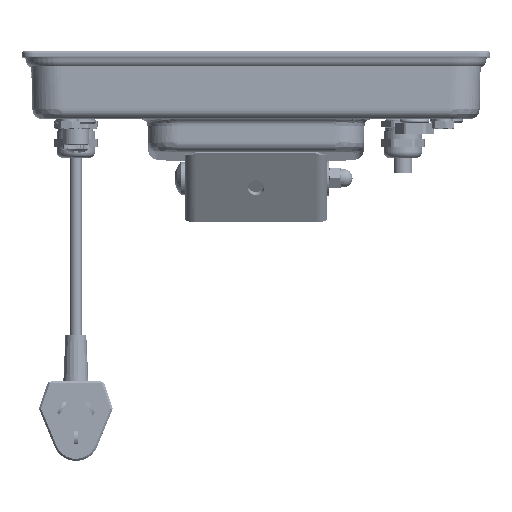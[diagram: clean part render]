
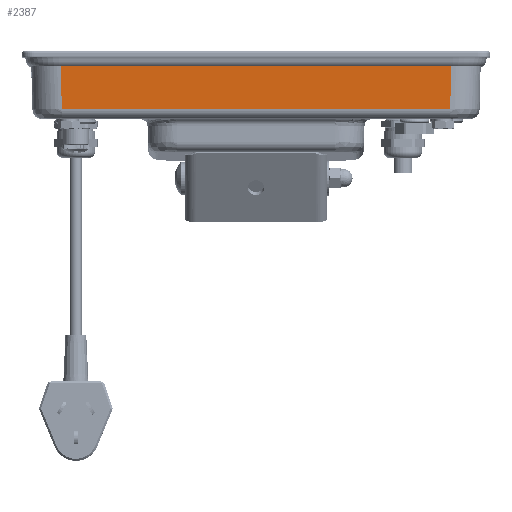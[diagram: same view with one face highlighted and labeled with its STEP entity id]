
A CAD part, top view. The second image highlights one B-rep face of the part: STEP entity #2387.
In plain terms, the highlighted planar face has unit normal (0, -0.026, 1).
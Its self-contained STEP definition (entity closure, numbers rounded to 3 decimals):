
#2=CARTESIAN_POINT('',(99.755,0.,72.5));
#12=DIRECTION('',(1.,0.,0.));
#13=VECTOR('',#12,199.51);
#14=CARTESIAN_POINT('',(-99.755,0.,72.5));
#15=LINE('',#14,#13);
#24=CARTESIAN_POINT('',(-99.755,0.,72.5));
#198=DIRECTION('',(0.026,0.999,0.026));
#199=VECTOR('',#198,23.147);
#200=CARTESIAN_POINT('',(99.149,-23.131,71.894));
#201=LINE('',#200,#199);
#202=DIRECTION('',(1.,0.,0.));
#203=VECTOR('',#202,198.299);
#204=CARTESIAN_POINT('',(-99.149,-23.131,71.894));
#205=LINE('',#204,#203);
#206=DIRECTION('',(-0.026,0.999,0.026));
#207=VECTOR('',#206,23.147);
#208=CARTESIAN_POINT('',(-99.149,-23.131,71.894));
#209=LINE('',#208,#207);
#1862=VERTEX_POINT('',#2);
#1867=VERTEX_POINT('',#24);
#1872=CARTESIAN_POINT('',(99.149,-23.131,71.894));
#1873=VERTEX_POINT('',#1872);
#1878=CARTESIAN_POINT('',(-99.149,-23.131,
71.894));
#1879=VERTEX_POINT('',#1878);
#2375=CARTESIAN_POINT('',(-114.75,0.,72.5));
#2376=DIRECTION('',(0.,-0.026,1.));
#2377=DIRECTION('',(-1.,0.,0.));
#2378=AXIS2_PLACEMENT_3D('',#2375,#2376,#2377);
#2379=PLANE('',#2378);
#2380=ORIENTED_EDGE('',*,*,#2285,.F.);
#2382=ORIENTED_EDGE('',*,*,#2381,.F.);
#2383=ORIENTED_EDGE('',*,*,#2366,.T.);
#2384=ORIENTED_EDGE('',*,*,#2241,.T.);
#2385=EDGE_LOOP('',(#2380,#2382,#2383,#2384));
#2386=FACE_OUTER_BOUND('',#2385,.F.);
#2387=ADVANCED_FACE('',(#2386),#2379,.T.);
#2241=EDGE_CURVE('',#1867,#1862,#15,.T.);
#2285=EDGE_CURVE('',#1873,#1862,#201,.T.);
#2366=EDGE_CURVE('',#1879,#1867,#209,.T.);
#2381=EDGE_CURVE('',#1879,#1873,#205,.T.);
